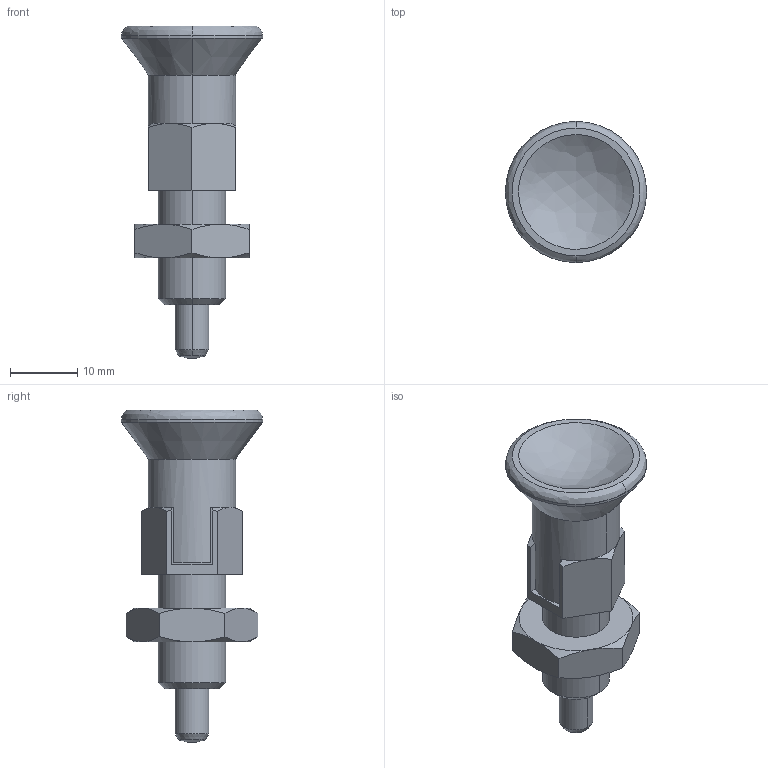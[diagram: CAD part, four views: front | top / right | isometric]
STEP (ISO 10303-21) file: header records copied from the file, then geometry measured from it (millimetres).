
FILE_DESCRIPTION (( 'STEP AP203' ), '1' );
FILE_NAME ('ndxne10lw-sus.STEP', '2021-10-26T04:21:43', ( '' ), ( '' ), 'SwSTEP 2.0', 'SolidWorks 2020', '' );
FILE_SCHEMA (( 'CONFIG_CONTROL_DESIGN' ));
Length unit declared in the file: millimetre
Products named in the file (3): ndxne10lw-sus_02; ndxne10lw-sus_01; ndxne10lw-sus
Assembly tree (2 placements, depth 2):
  ndxne10lw-sus
    ndxne10lw-sus_01
    ndxne10lw-sus_02
Bounding box: 21 x 21 x 49.41 mm (x, y, z)
Volume: 6205.5 mm3; surface area: 3356 mm2
Topology: 2 solids, 2 shells, 76 faces, 175 edges, 106 vertices
Faces by surface type: plane 35, cone 25, cylinder 10, bspline 6
Entity records: 2682 total; most frequent: CARTESIAN_POINT 724, ORIENTED_EDGE 350, DIRECTION 339, EDGE_CURVE 175, AXIS2_PLACEMENT_3D 131, VERTEX_POINT 106, EDGE_LOOP 81, LINE 77
